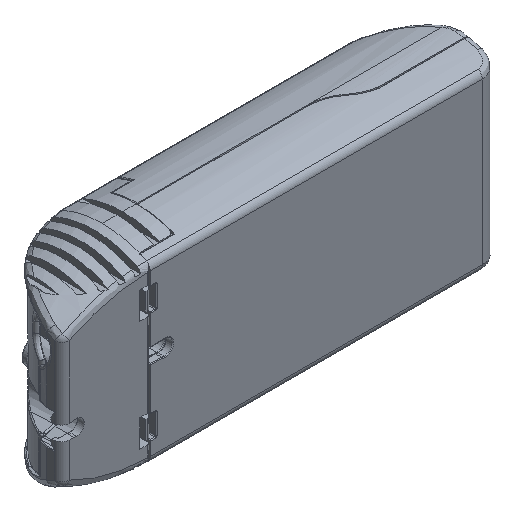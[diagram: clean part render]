
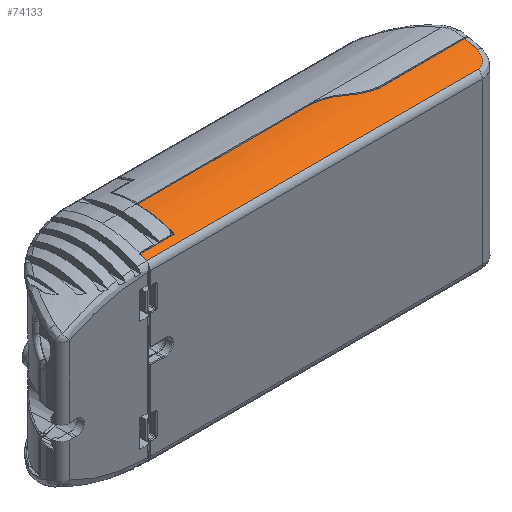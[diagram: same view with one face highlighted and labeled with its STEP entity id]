
A CAD part, isometric view. The second image highlights one B-rep face of the part: STEP entity #74133.
In plain terms, the highlighted cylindrical face has radius 26.4 mm (diameter 52.8 mm), a partial arc.
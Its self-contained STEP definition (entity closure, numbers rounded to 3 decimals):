
#21518 = AXIS2_PLACEMENT_3D ( 'NONE', #30409, #30410, #30423 ) ;
#30409 = CARTESIAN_POINT ( 'NONE',  ( 43.927, 15.544, 0. ) ) ;
#30410 = DIRECTION ( 'NONE',  ( -1., 0., 0. ) ) ;
#30423 = DIRECTION ( 'NONE',  ( 0., 0., 1. ) ) ;
#32711 = FACE_OUTER_BOUND ( 'NONE', #77739, .T. ) ;
#32734 = CYLINDRICAL_SURFACE ( 'NONE', #21518, 26.4 ) ;
#69415 = VERTEX_POINT ( 'NONE', #73725 ) ;
#69421 = VERTEX_POINT ( 'NONE', #73730 ) ;
#69571 = VERTEX_POINT ( 'NONE', #73855 ) ;
#69581 = VERTEX_POINT ( 'NONE', #73865 ) ;
#69587 = VERTEX_POINT ( 'NONE', #73872 ) ;
#69599 = VERTEX_POINT ( 'NONE', #73884 ) ;
#69617 = VERTEX_POINT ( 'NONE', #73900 ) ;
#69624 = VERTEX_POINT ( 'NONE', #73907 ) ;
#69627 = VERTEX_POINT ( 'NONE', #73910 ) ;
#69629 = VERTEX_POINT ( 'NONE', #73912 ) ;
#70686 = CIRCLE ( 'NONE', #101319, 26.4 ) ;
#71637 = EDGE_CURVE ( 'NONE', #69415, #69421, #70686, .T. ) ;
#71807 = EDGE_CURVE ( 'NONE', #69571, #69587, #110927, .T. ) ;
#71809 = EDGE_CURVE ( 'NONE', #69581, #69571, #110929, .T. ) ;
#71836 = EDGE_CURVE ( 'NONE', #69599, #69617, #88673, .T. ) ;
#71837 = EDGE_CURVE ( 'NONE', #69617, #69627, #110936, .T. ) ;
#71838 = EDGE_CURVE ( 'NONE', #69627, #69629, #88677, .T. ) ;
#71839 = EDGE_CURVE ( 'NONE', #69629, #69581, #88671, .T. ) ;
#71840 = EDGE_CURVE ( 'NONE', #69587, #69415, #88679, .T. ) ;
#71841 = EDGE_CURVE ( 'NONE', #69421, #69624, #88683, .T. ) ;
#71842 = EDGE_CURVE ( 'NONE', #69624, #69599, #88688, .T. ) ;
#73725 = CARTESIAN_POINT ( 'NONE',  ( -41.773, 15.246, 26.398 ) ) ;
#73730 = CARTESIAN_POINT ( 'NONE',  ( -41.773, 5.332, 24.345 ) ) ;
#73855 = CARTESIAN_POINT ( 'NONE',  ( 12.056, 12.767, 26.254 ) ) ;
#73865 = CARTESIAN_POINT ( 'NONE',  ( 18.727, 10.295, 25.874 ) ) ;
#73872 = CARTESIAN_POINT ( 'NONE',  ( 3.927, 15.246, 26.398 ) ) ;
#73884 = CARTESIAN_POINT ( 'NONE',  ( -51.073, 3.642, 23.565 ) ) ;
#73900 = CARTESIAN_POINT ( 'NONE',  ( 38.927, 3.642, 23.565 ) ) ;
#73907 = CARTESIAN_POINT ( 'NONE',  ( -51.073, 5.332, 24.345 ) ) ;
#73910 = CARTESIAN_POINT ( 'NONE',  ( 41.927, 6.888, 24.941 ) ) ;
#73912 = CARTESIAN_POINT ( 'NONE',  ( 41.927, 10.296, 25.873 ) ) ;
#74133 = ADVANCED_FACE ( 'NONE', ( #32711 ), #32734, .T. ) ;
#77739 = EDGE_LOOP ( 'NONE', ( #81696, #81698, #81700, #81702, #81703, #81704, #81705, #81706, #81707, #81708 ) ) ;
#81696 = ORIENTED_EDGE ( 'NONE', *, *, #71836, .T. ) ;
#81698 = ORIENTED_EDGE ( 'NONE', *, *, #71837, .T. ) ;
#81700 = ORIENTED_EDGE ( 'NONE', *, *, #71838, .T. ) ;
#81702 = ORIENTED_EDGE ( 'NONE', *, *, #71839, .T. ) ;
#81703 = ORIENTED_EDGE ( 'NONE', *, *, #71809, .T. ) ;
#81704 = ORIENTED_EDGE ( 'NONE', *, *, #71807, .T. ) ;
#81705 = ORIENTED_EDGE ( 'NONE', *, *, #71840, .T. ) ;
#81706 = ORIENTED_EDGE ( 'NONE', *, *, #71637, .T. ) ;
#81707 = ORIENTED_EDGE ( 'NONE', *, *, #71841, .T. ) ;
#81708 = ORIENTED_EDGE ( 'NONE', *, *, #71842, .T. ) ;
#83198 = CARTESIAN_POINT ( 'NONE',  ( -41.773, 15.544, 0. ) ) ;
#83201 = DIRECTION ( 'NONE',  ( 1., 0., 0. ) ) ;
#83204 = DIRECTION ( 'NONE',  ( 0., 0., -1. ) ) ;
#85133 = CARTESIAN_POINT ( 'NONE',  ( 11.458, 13.169, 26.296 ) ) ;
#85136 = CARTESIAN_POINT ( 'NONE',  ( 12.056, 12.767, 26.254 ) ) ;
#85146 = CARTESIAN_POINT ( 'NONE',  ( 10.835, 13.524, 26.324 ) ) ;
#85149 = CARTESIAN_POINT ( 'NONE',  ( 9.865, 13.985, 26.354 ) ) ;
#85152 = CARTESIAN_POINT ( 'NONE',  ( 9.535, 14.127, 26.362 ) ) ;
#85155 = CARTESIAN_POINT ( 'NONE',  ( 8.863, 14.388, 26.375 ) ) ;
#85158 = CARTESIAN_POINT ( 'NONE',  ( 8.519, 14.506, 26.38 ) ) ;
#85161 = CARTESIAN_POINT ( 'NONE',  ( 6.789, 15.035, 26.398 ) ) ;
#85163 = CARTESIAN_POINT ( 'NONE',  ( 5.373, 15.247, 26.398 ) ) ;
#85166 = CARTESIAN_POINT ( 'NONE',  ( 3.927, 15.246, 26.398 ) ) ;
#85169 = CARTESIAN_POINT ( 'NONE',  ( 18.727, 10.295, 25.874 ) ) ;
#85174 = CARTESIAN_POINT ( 'NONE',  ( 18.131, 10.365, 25.887 ) ) ;
#85189 = CARTESIAN_POINT ( 'NONE',  ( 17.544, 10.471, 25.908 ) ) ;
#85192 = CARTESIAN_POINT ( 'NONE',  ( 16.674, 10.68, 25.948 ) ) ;
#85195 = CARTESIAN_POINT ( 'NONE',  ( 16.386, 10.758, 25.963 ) ) ;
#85197 = CARTESIAN_POINT ( 'NONE',  ( 15.814, 10.931, 25.994 ) ) ;
#85199 = CARTESIAN_POINT ( 'NONE',  ( 15.531, 11.026, 26.011 ) ) ;
#85202 = CARTESIAN_POINT ( 'NONE',  ( 14.111, 11.549, 26.099 ) ) ;
#85205 = CARTESIAN_POINT ( 'NONE',  ( 13.046, 12.092, 26.182 ) ) ;
#85208 = CARTESIAN_POINT ( 'NONE',  ( 12.056, 12.767, 26.254 ) ) ;
#88671 = LINE ( 'NONE', #93119, #88681 ) ;
#88673 = LINE ( 'NONE', #93112, #88675 ) ;
#88675 = VECTOR ( 'NONE', #93114, 1000. ) ;
#88677 = CIRCLE ( 'NONE', #101476, 26.4 ) ;
#88679 = LINE ( 'NONE', #93162, #88686 ) ;
#88681 = VECTOR ( 'NONE', #93117, 1000. ) ;
#88683 = LINE ( 'NONE', #93167, #88690 ) ;
#88686 = VECTOR ( 'NONE', #93165, 1000. ) ;
#88688 = CIRCLE ( 'NONE', #101478, 26.4 ) ;
#88690 = VECTOR ( 'NONE', #93170, 1000. ) ;
#93058 = CARTESIAN_POINT ( 'NONE',  ( 38.927, 3.642, 23.565 ) ) ;
#93084 = CARTESIAN_POINT ( 'NONE',  ( 39.143, 3.642, 23.565 ) ) ;
#93112 = CARTESIAN_POINT ( 'NONE',  ( 43.927, 3.642, 23.565 ) ) ;
#93114 = DIRECTION ( 'NONE',  ( 1., 0., 0. ) ) ;
#93117 = DIRECTION ( 'NONE',  ( -1., 0., 0. ) ) ;
#93119 = CARTESIAN_POINT ( 'NONE',  ( 43.927, 10.293, 25.873 ) ) ;
#93121 = CARTESIAN_POINT ( 'NONE',  ( 39.354, 3.667, 23.578 ) ) ;
#93123 = CARTESIAN_POINT ( 'NONE',  ( 39.765, 3.763, 23.626 ) ) ;
#93124 = CARTESIAN_POINT ( 'NONE',  ( 39.967, 3.836, 23.662 ) ) ;
#93126 = CARTESIAN_POINT ( 'NONE',  ( 40.342, 4.017, 23.751 ) ) ;
#93128 = CARTESIAN_POINT ( 'NONE',  ( 40.517, 4.127, 23.804 ) ) ;
#93130 = CARTESIAN_POINT ( 'NONE',  ( 40.843, 4.381, 23.924 ) ) ;
#93132 = CARTESIAN_POINT ( 'NONE',  ( 40.989, 4.521, 23.989 ) ) ;
#93134 = CARTESIAN_POINT ( 'NONE',  ( 41.253, 4.827, 24.127 ) ) ;
#93136 = CARTESIAN_POINT ( 'NONE',  ( 41.37, 4.993, 24.201 ) ) ;
#93137 = CARTESIAN_POINT ( 'NONE',  ( 41.57, 5.339, 24.349 ) ) ;
#93139 = CARTESIAN_POINT ( 'NONE',  ( 41.654, 5.52, 24.424 ) ) ;
#93141 = CARTESIAN_POINT ( 'NONE',  ( 41.79, 5.895, 24.574 ) ) ;
#93143 = CARTESIAN_POINT ( 'NONE',  ( 41.841, 6.091, 24.65 ) ) ;
#93145 = CARTESIAN_POINT ( 'NONE',  ( 41.91, 6.485, 24.798 ) ) ;
#93147 = CARTESIAN_POINT ( 'NONE',  ( 41.927, 6.685, 24.87 ) ) ;
#93149 = CARTESIAN_POINT ( 'NONE',  ( 41.927, 6.888, 24.941 ) ) ;
#93156 = CARTESIAN_POINT ( 'NONE',  ( 41.927, 15.544, 0. ) ) ;
#93158 = DIRECTION ( 'NONE',  ( -1., 0., 0. ) ) ;
#93160 = DIRECTION ( 'NONE',  ( 0., 0., -1. ) ) ;
#93162 = CARTESIAN_POINT ( 'NONE',  ( 43.927, 15.246, 26.398 ) ) ;
#93165 = DIRECTION ( 'NONE',  ( -1., 0., 0. ) ) ;
#93167 = CARTESIAN_POINT ( 'NONE',  ( 43.927, 5.332, 24.345 ) ) ;
#93170 = DIRECTION ( 'NONE',  ( -1., 0., 0. ) ) ;
#93176 = CARTESIAN_POINT ( 'NONE',  ( -51.073, 15.544, 0. ) ) ;
#93178 = DIRECTION ( 'NONE',  ( 1., 0., 0. ) ) ;
#93180 = DIRECTION ( 'NONE',  ( 0., 0., -1. ) ) ;
#101319 = AXIS2_PLACEMENT_3D ( 'NONE', #83198, #83201, #83204 ) ;
#101476 = AXIS2_PLACEMENT_3D ( 'NONE', #93156, #93158, #93160 ) ;
#101478 = AXIS2_PLACEMENT_3D ( 'NONE', #93176, #93178, #93180 ) ;
#110927 = B_SPLINE_CURVE_WITH_KNOTS ( 'NONE', 3,
 ( #85136, #85133, #85146, #85149, #85152, #85155, #85158, #85161, #85163, #85166 ),
 .UNSPECIFIED., .F., .F.,
 ( 4, 2, 2, 2, 4 ),
 ( 0., 0.25, 0.375, 0.5, 1. ),
 .UNSPECIFIED. ) ;
#110929 = B_SPLINE_CURVE_WITH_KNOTS ( 'NONE', 3,
 ( #85169, #85174, #85189, #85192, #85195, #85197, #85199, #85202, #85205, #85208 ),
 .UNSPECIFIED., .F., .F.,
 ( 4, 2, 2, 2, 4 ),
 ( 0., 0.25, 0.375, 0.5, 1. ),
 .UNSPECIFIED. ) ;
#110936 = B_SPLINE_CURVE_WITH_KNOTS ( 'NONE', 3,
 ( #93058, #93084, #93121, #93123, #93124, #93126, #93128, #93130, #93132, #93134, #93136, #93137, #93139, #93141, #93143, #93145, #93147, #93149 ),
 .UNSPECIFIED., .F., .F.,
 ( 4, 2, 2, 2, 2, 2, 2, 2, 4 ),
 ( 0., 0.001, 0.001, 0.002, 0.003, 0.003, 0.004, 0.004, 0.005 ),
 .UNSPECIFIED. ) ;
